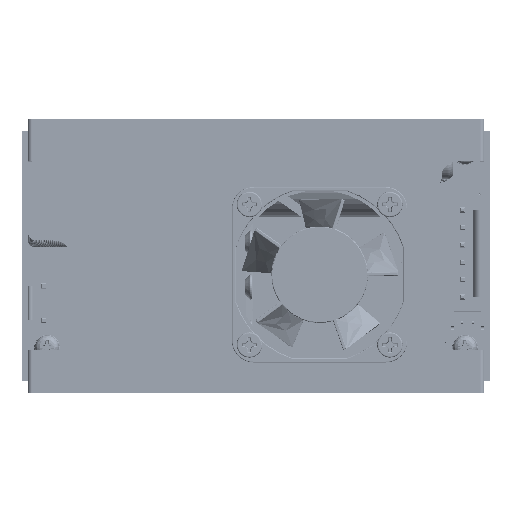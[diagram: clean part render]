
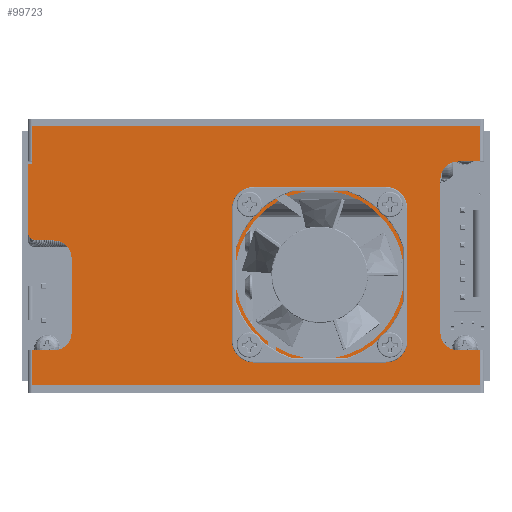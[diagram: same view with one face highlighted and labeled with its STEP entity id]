
A CAD part, top view. The second image highlights one B-rep face of the part: STEP entity #99723.
In plain terms, the highlighted planar face has unit normal (0, 0, 1).
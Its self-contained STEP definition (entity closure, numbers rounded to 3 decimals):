
#11715=FACE_BOUND($,#20930,.T.);
#11716=FACE_BOUND($,#20931,.T.);
#11717=FACE_BOUND($,#20932,.T.);
#11718=FACE_BOUND($,#20933,.T.);
#11719=FACE_BOUND($,#20934,.T.);
#12199=PLANE($,#107230);
#13571=FACE_OUTER_BOUND($,#20929,.T.);
#20929=EDGE_LOOP($,(#65899,#65900,#65901,#65902,#65903,#65904,#65905,#65906,
#65907,#65908,#65909,#65910,#65911,#65912,#65913,#65914,#65915,#65916,#65917,
#65918));
#20930=EDGE_LOOP($,(#65919));
#20931=EDGE_LOOP($,(#65920));
#20932=EDGE_LOOP($,(#65921));
#20933=EDGE_LOOP($,(#65922));
#20934=EDGE_LOOP($,(#65923));
#28673=LINE($,#156203,#32848);
#28681=LINE($,#156224,#32856);
#28684=LINE($,#156236,#32859);
#28688=LINE($,#156248,#32863);
#28711=LINE($,#156307,#32886);
#28766=LINE($,#156453,#32941);
#28832=LINE($,#156623,#33007);
#28833=LINE($,#156625,#33008);
#28834=LINE($,#156626,#33009);
#28835=LINE($,#156628,#33010);
#28836=LINE($,#156630,#33011);
#28837=LINE($,#156632,#33012);
#28838=LINE($,#156634,#33013);
#28839=LINE($,#156636,#33014);
#28840=LINE($,#156637,#33015);
#32848=VECTOR($,#122100,5.);
#32856=VECTOR($,#122118,35.);
#32859=VECTOR($,#122129,17.);
#32863=VECTOR($,#122141,4.);
#32886=VECTOR($,#122184,15.5);
#32941=VECTOR($,#122309,5.);
#33007=VECTOR($,#122463,8.);
#33008=VECTOR($,#122464,102.);
#33009=VECTOR($,#122465,8.);
#33010=VECTOR($,#122466,5.);
#33011=VECTOR($,#122467,8.);
#33012=VECTOR($,#122468,102.);
#33013=VECTOR($,#122469,8.);
#33014=VECTOR($,#122470,0.5);
#33015=VECTOR($,#122471,1.);
#37021=CIRCLE($,#107126,4.);
#37024=CIRCLE($,#107131,4.);
#37026=CIRCLE($,#107135,4.);
#37028=CIRCLE($,#107139,4.);
#37031=CIRCLE($,#107144,2.);
#37074=CIRCLE($,#107231,19.25);
#37075=CIRCLE($,#107232,1.35);
#37076=CIRCLE($,#107233,1.35);
#37077=CIRCLE($,#107234,1.35);
#37078=CIRCLE($,#107235,1.35);
#44116=VERTEX_POINT($,#156193);
#44117=VERTEX_POINT($,#156194);
#44120=VERTEX_POINT($,#156202);
#44125=VERTEX_POINT($,#156214);
#44126=VERTEX_POINT($,#156215);
#44129=VERTEX_POINT($,#156226);
#44130=VERTEX_POINT($,#156227);
#44133=VERTEX_POINT($,#156235);
#44135=VERTEX_POINT($,#156241);
#44137=VERTEX_POINT($,#156247);
#44140=VERTEX_POINT($,#156255);
#44163=VERTEX_POINT($,#156306);
#44219=VERTEX_POINT($,#156451);
#44279=VERTEX_POINT($,#156622);
#44280=VERTEX_POINT($,#156624);
#44281=VERTEX_POINT($,#156627);
#44282=VERTEX_POINT($,#156629);
#44283=VERTEX_POINT($,#156631);
#44284=VERTEX_POINT($,#156633);
#44285=VERTEX_POINT($,#156635);
#44286=VERTEX_POINT($,#156638);
#44287=VERTEX_POINT($,#156640);
#44288=VERTEX_POINT($,#156642);
#44289=VERTEX_POINT($,#156644);
#44290=VERTEX_POINT($,#156646);
#51324=EDGE_CURVE($,#44116,#44117,#37021,.T.);
#51328=EDGE_CURVE($,#44120,#44117,#28673,.T.);
#51334=EDGE_CURVE($,#44125,#44126,#37024,.T.);
#51339=EDGE_CURVE($,#44116,#44126,#28681,.T.);
#51340=EDGE_CURVE($,#44129,#44130,#37026,.T.);
#51344=EDGE_CURVE($,#44133,#44130,#28684,.T.);
#51347=EDGE_CURVE($,#44133,#44135,#37028,.T.);
#51350=EDGE_CURVE($,#44137,#44135,#28688,.T.);
#51354=EDGE_CURVE($,#44137,#44140,#37031,.T.);
#51380=EDGE_CURVE($,#44163,#44140,#28711,.T.);
#51452=EDGE_CURVE($,#44129,#44219,#28766,.T.);
#51538=EDGE_CURVE($,#44219,#44279,#28832,.T.);
#51539=EDGE_CURVE($,#44279,#44280,#28833,.T.);
#51540=EDGE_CURVE($,#44280,#44120,#28834,.T.);
#51541=EDGE_CURVE($,#44125,#44281,#28835,.T.);
#51542=EDGE_CURVE($,#44281,#44282,#28836,.T.);
#51543=EDGE_CURVE($,#44282,#44283,#28837,.T.);
#51544=EDGE_CURVE($,#44283,#44284,#28838,.T.);
#51545=EDGE_CURVE($,#44285,#44284,#28839,.T.);
#51546=EDGE_CURVE($,#44163,#44285,#28840,.T.);
#51547=EDGE_CURVE($,#44286,#44286,#37074,.T.);
#51548=EDGE_CURVE($,#44287,#44287,#37075,.T.);
#51549=EDGE_CURVE($,#44288,#44288,#37076,.T.);
#51550=EDGE_CURVE($,#44289,#44289,#37077,.T.);
#51551=EDGE_CURVE($,#44290,#44290,#37078,.T.);
#65899=ORIENTED_EDGE($,*,*,#51354,.F.);
#65900=ORIENTED_EDGE($,*,*,#51350,.T.);
#65901=ORIENTED_EDGE($,*,*,#51347,.F.);
#65902=ORIENTED_EDGE($,*,*,#51344,.T.);
#65903=ORIENTED_EDGE($,*,*,#51340,.F.);
#65904=ORIENTED_EDGE($,*,*,#51452,.T.);
#65905=ORIENTED_EDGE($,*,*,#51538,.T.);
#65906=ORIENTED_EDGE($,*,*,#51539,.T.);
#65907=ORIENTED_EDGE($,*,*,#51540,.T.);
#65908=ORIENTED_EDGE($,*,*,#51328,.T.);
#65909=ORIENTED_EDGE($,*,*,#51324,.F.);
#65910=ORIENTED_EDGE($,*,*,#51339,.T.);
#65911=ORIENTED_EDGE($,*,*,#51334,.F.);
#65912=ORIENTED_EDGE($,*,*,#51541,.T.);
#65913=ORIENTED_EDGE($,*,*,#51542,.T.);
#65914=ORIENTED_EDGE($,*,*,#51543,.T.);
#65915=ORIENTED_EDGE($,*,*,#51544,.T.);
#65916=ORIENTED_EDGE($,*,*,#51545,.F.);
#65917=ORIENTED_EDGE($,*,*,#51546,.F.);
#65918=ORIENTED_EDGE($,*,*,#51380,.T.);
#65919=ORIENTED_EDGE($,*,*,#51547,.T.);
#65920=ORIENTED_EDGE($,*,*,#51548,.T.);
#65921=ORIENTED_EDGE($,*,*,#51549,.T.);
#65922=ORIENTED_EDGE($,*,*,#51550,.T.);
#65923=ORIENTED_EDGE($,*,*,#51551,.T.);
#99723=ADVANCED_FACE($,(#13571,#11715,#11716,#11717,#11718,#11719),#12199,
 .T.);
#107126=AXIS2_PLACEMENT_3D($,#156195,#122092,#122093);
#107131=AXIS2_PLACEMENT_3D($,#156216,#122109,#122110);
#107135=AXIS2_PLACEMENT_3D($,#156228,#122121,#122122);
#107139=AXIS2_PLACEMENT_3D($,#156242,#122134,#122135);
#107144=AXIS2_PLACEMENT_3D($,#156256,#122148,#122149);
#107230=AXIS2_PLACEMENT_3D($,#156621,#122461,#122462);
#107231=AXIS2_PLACEMENT_3D($,#156639,#122472,#122473);
#107232=AXIS2_PLACEMENT_3D($,#156641,#122474,#122475);
#107233=AXIS2_PLACEMENT_3D($,#156643,#122476,#122477);
#107234=AXIS2_PLACEMENT_3D($,#156645,#122478,#122479);
#107235=AXIS2_PLACEMENT_3D($,#156647,#122480,#122481);
#122092=DIRECTION('center_axis',(0.,0.,1.));
#122093=DIRECTION('ref_axis',(-0.707,-0.707,0.));
#122100=DIRECTION($,(-1.,0.,0.));
#122109=DIRECTION('center_axis',(0.,0.,1.));
#122110=DIRECTION('ref_axis',(-0.707,0.707,0.));
#122118=DIRECTION($,(0.,1.,0.));
#122121=DIRECTION('center_axis',(0.,0.,1.));
#122122=DIRECTION('ref_axis',(0.707,-0.707,0.));
#122129=DIRECTION($,(0.,-1.,0.));
#122134=DIRECTION('center_axis',(0.,0.,1.));
#122135=DIRECTION('ref_axis',(0.707,0.707,0.));
#122141=DIRECTION($,(1.,0.,0.));
#122148=DIRECTION('center_axis',(0.,0.,-1.));
#122149=DIRECTION('ref_axis',(-0.707,-0.707,0.));
#122184=DIRECTION($,(0.,-1.,0.));
#122309=DIRECTION($,(-1.,0.,0.));
#122461=DIRECTION('center_axis',(0.,0.,1.));
#122462=DIRECTION('ref_axis',(1.,0.,0.));
#122463=DIRECTION($,(0.,-1.,0.));
#122464=DIRECTION($,(1.,0.,0.));
#122465=DIRECTION($,(0.,1.,0.));
#122466=DIRECTION($,(1.,0.,0.));
#122467=DIRECTION($,(0.,1.,0.));
#122468=DIRECTION($,(-1.,0.,0.));
#122469=DIRECTION($,(0.,-1.,0.));
#122470=DIRECTION($,(0.,1.,0.));
#122471=DIRECTION($,(1.,0.,0.));
#122472=DIRECTION('center_axis',(0.,0.,-1.));
#122473=DIRECTION('ref_axis',(-1.,0.,0.));
#122474=DIRECTION('center_axis',(0.,0.,-1.));
#122475=DIRECTION('ref_axis',(0.,-1.,0.));
#122476=DIRECTION('center_axis',(0.,0.,-1.));
#122477=DIRECTION('ref_axis',(0.,-1.,0.));
#122478=DIRECTION('center_axis',(0.,0.,-1.));
#122479=DIRECTION('ref_axis',(0.,-1.,0.));
#122480=DIRECTION('center_axis',(0.,0.,-1.));
#122481=DIRECTION('ref_axis',(0.,-1.,0.));
#156193=CARTESIAN_POINT('',(42.,-17.,1.));
#156194=CARTESIAN_POINT('',(46.,-21.,1.));
#156195=CARTESIAN_POINT('Origin',(46.,-17.,1.));
#156202=CARTESIAN_POINT('',(51.,-21.,1.));
#156203=CARTESIAN_POINT($,(26.,-21.,1.));
#156214=CARTESIAN_POINT('',(46.,22.,1.));
#156215=CARTESIAN_POINT('',(42.,18.,1.));
#156216=CARTESIAN_POINT('Origin',(46.,18.,1.));
#156224=CARTESIAN_POINT($,(42.,-10.5,1.));
#156226=CARTESIAN_POINT('',(-46.,-21.,1.));
#156227=CARTESIAN_POINT('',(-42.,-17.,1.));
#156228=CARTESIAN_POINT('Origin',(-46.,-17.,1.));
#156235=CARTESIAN_POINT('',(-42.,0.,1.));
#156236=CARTESIAN_POINT($,(-42.,11.7,1.));
#156241=CARTESIAN_POINT('',(-46.,4.,1.));
#156242=CARTESIAN_POINT('Origin',(-46.,0.,1.));
#156247=CARTESIAN_POINT('',(-50.,4.,1.));
#156248=CARTESIAN_POINT($,(-52.,4.,1.));
#156255=CARTESIAN_POINT('',(-52.,6.,1.));
#156256=CARTESIAN_POINT('Origin',(-50.,6.,1.));
#156306=CARTESIAN_POINT('',(-52.,21.5,1.));
#156307=CARTESIAN_POINT($,(-52.,21.5,1.));
#156451=CARTESIAN_POINT('',(-51.,-21.,1.));
#156453=CARTESIAN_POINT($,(-21.,-21.,1.));
#156621=CARTESIAN_POINT('Origin',(0.,0.,1.));
#156622=CARTESIAN_POINT('',(-51.,-29.,1.));
#156623=CARTESIAN_POINT($,(-51.,-21.,1.));
#156624=CARTESIAN_POINT('',(51.,-29.,1.));
#156625=CARTESIAN_POINT($,(-51.,-29.,1.));
#156626=CARTESIAN_POINT($,(51.,-29.,1.));
#156627=CARTESIAN_POINT('',(51.,22.,1.));
#156628=CARTESIAN_POINT($,(21.,22.,1.));
#156629=CARTESIAN_POINT('',(51.,30.,1.));
#156630=CARTESIAN_POINT($,(51.,22.,1.));
#156631=CARTESIAN_POINT('',(-51.,30.,1.));
#156632=CARTESIAN_POINT($,(51.,30.,1.));
#156633=CARTESIAN_POINT('',(-51.,22.,1.));
#156634=CARTESIAN_POINT($,(-51.,30.,1.));
#156635=CARTESIAN_POINT('',(-51.,21.5,1.));
#156636=CARTESIAN_POINT($,(-51.,21.5,1.));
#156637=CARTESIAN_POINT($,(-52.,21.5,1.));
#156638=CARTESIAN_POINT('',(33.75,-3.8,1.));
#156639=CARTESIAN_POINT('Origin',(14.5,-3.8,1.));
#156640=CARTESIAN_POINT('',(-2.85,12.2,1.));
#156641=CARTESIAN_POINT('Origin',(-1.5,12.2,1.));
#156642=CARTESIAN_POINT('',(29.15,12.2,1.));
#156643=CARTESIAN_POINT('Origin',(30.5,12.2,1.));
#156644=CARTESIAN_POINT('',(31.85,-19.8,1.));
#156645=CARTESIAN_POINT('Origin',(30.5,-19.8,1.));
#156646=CARTESIAN_POINT('',(-0.15,-19.8,1.));
#156647=CARTESIAN_POINT('Origin',(-1.5,-19.8,1.));
